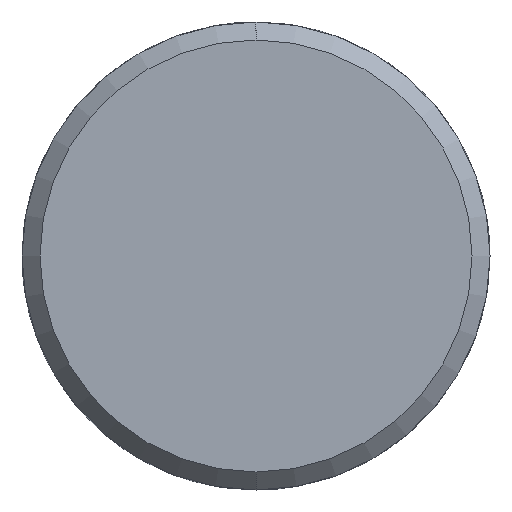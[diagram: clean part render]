
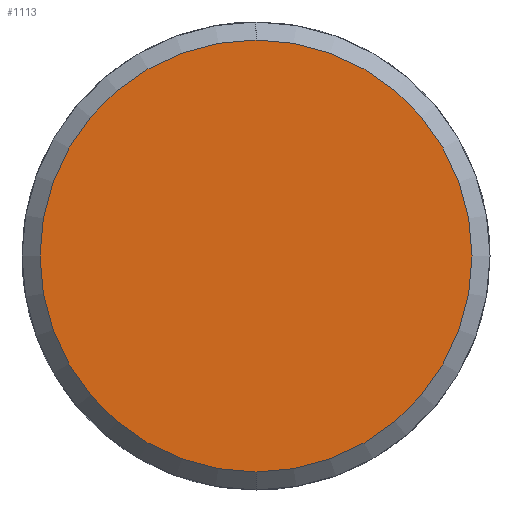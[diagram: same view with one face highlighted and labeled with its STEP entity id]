
A CAD part, left-side view. The second image highlights one B-rep face of the part: STEP entity #1113.
In plain terms, the highlighted planar face has unit normal (-1, 0, 0).
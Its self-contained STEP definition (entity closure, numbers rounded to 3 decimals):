
#1045=CARTESIAN_POINT('Vertex',(-5.,0.,-12.)) ;
#1048=CARTESIAN_POINT('Axis2P3D Location',(-5.,0.,0.)) ;
#1052=CARTESIAN_POINT('Vertex',(-5.,12.,0.)) ;
#1055=CARTESIAN_POINT('Axis2P3D Location',(-5.,0.,0.)) ;
#1059=CARTESIAN_POINT('Vertex',(-5.,0.,12.)) ;
#1081=CARTESIAN_POINT('Axis2P3D Location',(-5.,0.,0.)) ;
#1085=CARTESIAN_POINT('Vertex',(-5.,-12.,0.)) ;
#1088=CARTESIAN_POINT('Axis2P3D Location',(-5.,0.,0.)) ;
#1102=CARTESIAN_POINT('Axis2P3D Location',(-5.,0.,0.)) ;
#1049=DIRECTION('Axis2P3D Direction',(1.,0.,-0.)) ;
#1056=DIRECTION('Axis2P3D Direction',(1.,0.,-0.)) ;
#1082=DIRECTION('Axis2P3D Direction',(1.,0.,-0.)) ;
#1089=DIRECTION('Axis2P3D Direction',(1.,0.,-0.)) ;
#1103=DIRECTION('Axis2P3D Direction',(1.,0.,-0.)) ;
#1104=DIRECTION('Axis2P3D XDirection',(-0.,0.,-1.)) ;
#1050=AXIS2_PLACEMENT_3D('Circle Axis2P3D',#1048,#1049,$) ;
#1057=AXIS2_PLACEMENT_3D('Circle Axis2P3D',#1055,#1056,$) ;
#1083=AXIS2_PLACEMENT_3D('Circle Axis2P3D',#1081,#1082,$) ;
#1090=AXIS2_PLACEMENT_3D('Circle Axis2P3D',#1088,#1089,$) ;
#1105=AXIS2_PLACEMENT_3D('Plane Axis2P3D',#1102,#1103,#1104) ;
#1108=ORIENTED_EDGE('',*,*,#1054,.F.) ;
#1109=ORIENTED_EDGE('',*,*,#1092,.F.) ;
#1110=ORIENTED_EDGE('',*,*,#1087,.F.) ;
#1111=ORIENTED_EDGE('',*,*,#1061,.F.) ;
#1113=ADVANCED_FACE('351-16X22X50',(#1112),#1106,.F.) ;
#1051=CIRCLE('generated circle',#1050,12.) ;
#1058=CIRCLE('generated circle',#1057,12.) ;
#1084=CIRCLE('generated circle',#1083,12.) ;
#1091=CIRCLE('generated circle',#1090,12.) ;
#1054=EDGE_CURVE('',#1046,#1053,#1051,.T.) ;
#1061=EDGE_CURVE('',#1053,#1060,#1058,.T.) ;
#1087=EDGE_CURVE('',#1060,#1086,#1084,.T.) ;
#1092=EDGE_CURVE('',#1086,#1046,#1091,.T.) ;
#1107=EDGE_LOOP('',(#1108,#1109,#1110,#1111)) ;
#1112=FACE_OUTER_BOUND('',#1107,.T.) ;
#1106=PLANE('Plane',#1105) ;
#1046=VERTEX_POINT('',#1045) ;
#1053=VERTEX_POINT('',#1052) ;
#1060=VERTEX_POINT('',#1059) ;
#1086=VERTEX_POINT('',#1085) ;
